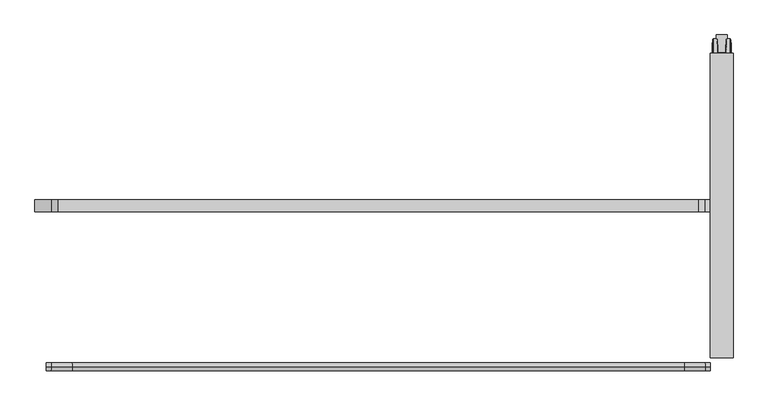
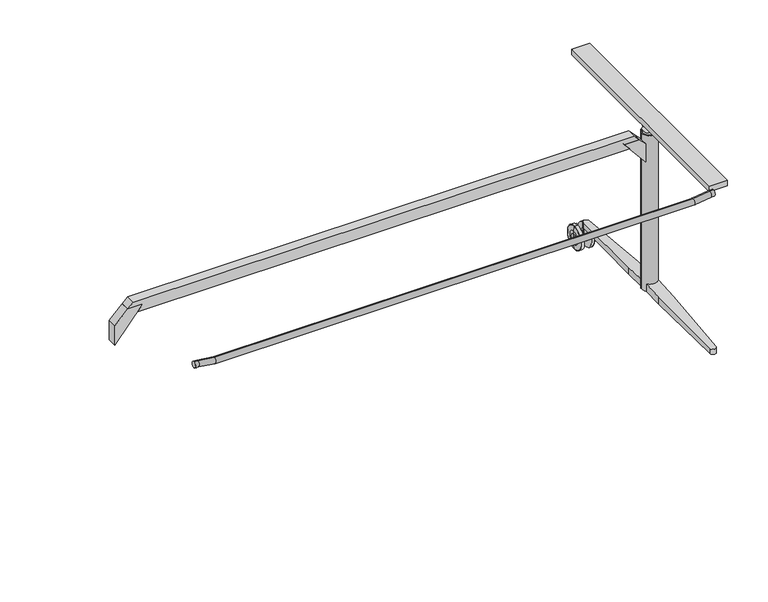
"""IFC4 building model written with IfcOpenShell, lengths in millimetres: furniture geometry, Table_Foldable_Wilkhahn_TimetableLift_Whiteboard : 2000w x 1000d (615/10)."""

from ifc_helpers import new_model, si_unit, point, frame, frame_2d, origin, place, context, project, spatial, polyline, circle_curve, ellipse_curve, trimmed, segment, composite_curve, outline, extrude, source, transform, mapped, element, save
from ifc_brep_helpers import plane_surface, cylinder_surface, revolved_surface, advanced_brep


def furniture_ac27c87f(model_context):
    return source(origin(), model_context, "Body", "SolidModel", [
        advanced_brep(
        [(870.4530674, 520.9511544, 26.9613134), (870.4530674, 520.9511544, 53.0387194), (870.4530674, 520.9511544, 40.0000164), (872.5845915, 520.9511544, 0.8972162), (872.5845915, 520.9511544, 79.1028166), (871.0121742, 520.9511544, 63.8876748), (871.0121742, 520.9511544, 16.1123581), (883.5439759, 520.9511544, 1.43e-05), (883.5439759, 520.9511544, 80.0000185), (873.5792938, 520.9511544, 80.0000185), (873.5792938, 520.9511544, 1.43e-05), (885.4530966, 520.9511544, 20.9999281), (885.4530966, 520.9511544, 59.0001048), (885.4530966, 520.9511544, 32.3463502), (885.4530966, 520.9511544, 47.6536826), (905.3531174, 520.9511544, 32.3463502), (905.3531174, 520.9511544, 47.6536826), (905.3531174, 520.9511544, 20.9999281), (905.3531174, 520.9511544, 59.0001048), (907.2622381, 520.9511544, 1.43e-05), (907.2622381, 520.9511544, 80.0000185), (916.3249398, 520.9511544, 1.43e-05), (916.3249398, 520.9511544, 80.0000185), (919.7942336, 520.9511544, 16.1142331), (919.7942336, 520.9511544, 63.8857997), (918.3143443, 520.9511544, 78.2056147), (918.3143443, 520.9511544, 1.7944182), (920.3531466, 520.9511544, 40.0000164), (920.3531466, 520.9511544, 53.0406045), (920.3531466, 520.9511544, 26.9594284)],
        [
            (0, 1, circle_curve(frame((870.4530674, 520.9511544, 40.0000164), z_axis=(-1.0, 0.0, 0.0), x_axis=(0.0, 0.0, 1.0)), 13.038703)),
            (1, 2),
            (2, 0),
            (1, 0, circle_curve(frame((870.4530674, 520.9511544, 40.0000164), z_axis=(-1.0, 0.0, 0.0), x_axis=(0.0, 0.0, 1.0)), 13.038703)),
            (3, 4, circle_curve(frame((872.5845915, 520.9511544, 40.0000164), z_axis=(-1.0, 0.0, 0.0), x_axis=(0.0, 0.0, 1.0)), 39.1028002)),
            (4, 5),
            (5, 6, circle_curve(frame((871.0121742, 520.9511544, 40.0000164), z_axis=(1.0, 0.0, 0.0), x_axis=(0.0, 0.0, 1.0)), 23.8876584)),
            (6, 3),
            (4, 3, circle_curve(frame((872.5845915, 520.9511544, 40.0000164), z_axis=(-1.0, 0.0, 0.0), x_axis=(0.0, 0.0, 1.0)), 39.1028002)),
            (6, 5, circle_curve(frame((871.0121742, 520.9511544, 40.0000164), z_axis=(1.0, 0.0, 0.0), x_axis=(0.0, 0.0, 1.0)), 23.8876584)),
            (7, 8, circle_curve(frame((883.5439759, 520.9511544, 40.0000164), z_axis=(-1.0, 0.0, 0.0), x_axis=(0.0, 0.0, 1.0)), 40.0000021)),
            (8, 9),
            (9, 10, circle_curve(frame((873.5792938, 520.9511544, 40.0000164), z_axis=(1.0, 0.0, 0.0), x_axis=(0.0, 0.0, 1.0)), 40.0000021)),
            (10, 7),
            (8, 7, circle_curve(frame((883.5439759, 520.9511544, 40.0000164), z_axis=(-1.0, 0.0, 0.0), x_axis=(0.0, 0.0, 1.0)), 40.0000021)),
            (10, 9, circle_curve(frame((873.5792938, 520.9511544, 40.0000164), z_axis=(1.0, 0.0, 0.0), x_axis=(0.0, 0.0, 1.0)), 40.0000021)),
            (11, 12, circle_curve(frame((885.4530966, 520.9511544, 40.0000164), z_axis=(-1.0, 0.0, 0.0), x_axis=(0.0, 0.0, 1.0)), 19.0000883)),
            (12, 8),
            (7, 11),
            (12, 11, circle_curve(frame((885.4530966, 520.9511544, 40.0000164), z_axis=(-1.0, 0.0, 0.0), x_axis=(0.0, 0.0, 1.0)), 19.0000883)),
            (13, 14, circle_curve(frame((885.4530966, 520.9511544, 40.0000164), z_axis=(-1.0, 0.0, 0.0), x_axis=(0.0, 0.0, 1.0)), 7.6536662)),
            (14, 12),
            (11, 13),
            (14, 13, circle_curve(frame((885.4530966, 520.9511544, 40.0000164), z_axis=(-1.0, 0.0, 0.0), x_axis=(0.0, 0.0, 1.0)), 7.6536662)),
            (15, 16, circle_curve(frame((905.3531174, 520.9511544, 40.0000164), z_axis=(-1.0, 0.0, 0.0), x_axis=(0.0, 0.0, 1.0)), 7.6536662)),
            (16, 14),
            (13, 15),
            (16, 15, circle_curve(frame((905.3531174, 520.9511544, 40.0000164), z_axis=(-1.0, 0.0, 0.0), x_axis=(0.0, 0.0, 1.0)), 7.6536662)),
            (17, 18, circle_curve(frame((905.3531174, 520.9511544, 40.0000164), z_axis=(-1.0, 0.0, 0.0), x_axis=(0.0, 0.0, 1.0)), 19.0000883)),
            (18, 16),
            (15, 17),
            (18, 17, circle_curve(frame((905.3531174, 520.9511544, 40.0000164), z_axis=(-1.0, 0.0, 0.0), x_axis=(0.0, 0.0, 1.0)), 19.0000883)),
            (19, 20, circle_curve(frame((907.2622381, 520.9511544, 40.0000164), z_axis=(-1.0, 0.0, 0.0), x_axis=(0.0, 0.0, 1.0)), 40.0000021)),
            (20, 18),
            (17, 19),
            (20, 19, circle_curve(frame((907.2622381, 520.9511544, 40.0000164), z_axis=(-1.0, 0.0, 0.0), x_axis=(0.0, 0.0, 1.0)), 40.0000021)),
            (21, 22, circle_curve(frame((916.3249398, 520.9511544, 40.0000164), z_axis=(-1.0, 0.0, 0.0), x_axis=(0.0, 0.0, 1.0)), 40.0000021)),
            (22, 20),
            (19, 21),
            (22, 21, circle_curve(frame((916.3249398, 520.9511544, 40.0000164), z_axis=(-1.0, 0.0, 0.0), x_axis=(0.0, 0.0, 1.0)), 40.0000021)),
            (23, 24, circle_curve(frame((919.7942336, 520.9511544, 40.0000164), z_axis=(-1.0, 0.0, 0.0), x_axis=(0.0, 0.0, 1.0)), 23.8857833)),
            (24, 25),
            (25, 26, circle_curve(frame((918.3143443, 520.9511544, 40.0000164), z_axis=(1.0, 0.0, 0.0), x_axis=(0.0, 0.0, 1.0)), 38.2055982)),
            (26, 23),
            (24, 23, circle_curve(frame((919.7942336, 520.9511544, 40.0000164), z_axis=(-1.0, 0.0, 0.0), x_axis=(0.0, 0.0, 1.0)), 23.8857833)),
            (26, 25, circle_curve(frame((918.3143443, 520.9511544, 40.0000164), z_axis=(1.0, 0.0, 0.0), x_axis=(0.0, 0.0, 1.0)), 38.2055982)),
            (27, 28),
            (28, 29, circle_curve(frame((920.3531466, 520.9511544, 40.0000164), z_axis=(1.0, 0.0, 0.0), x_axis=(0.0, 0.0, 1.0)), 13.0405881)),
            (29, 27),
            (29, 28, circle_curve(frame((920.3531466, 520.9511544, 40.0000164), z_axis=(1.0, 0.0, 0.0), x_axis=(0.0, 0.0, 1.0)), 13.0405881)),
            (5, 1, circle_curve(frame((975.9896451, 520.9511544, 53.0387194), z_axis=(0.0, -1.0, 0.0), x_axis=(-1.0, 0.0, 0.0)), 105.5365777)),
            (0, 6, circle_curve(frame((975.9896451, 520.9511544, 26.9613134), z_axis=(0.0, -1.0, 0.0), x_axis=(-1.0, 0.0, 0.0)), 105.5365777)),
            (9, 4, circle_curve(frame((873.5792938, 520.9511544, 79.0000185), z_axis=(0.0, -1.0, 0.0), x_axis=(-1.0, 0.0, 0.0)), 1.0)),
            (3, 10, circle_curve(frame((873.5792938, 520.9511544, 1.0000143), z_axis=(0.0, -1.0, 0.0), x_axis=(-1.0, 0.0, 0.0)), 1.0)),
            (25, 22, circle_curve(frame((916.3249398, 520.9511544, 78.0000185), z_axis=(0.0, -1.0, 0.0), x_axis=(-1.0, 0.0, 0.0)), 2.0)),
            (21, 26, circle_curve(frame((916.3249398, 520.9511544, 2.0000143), z_axis=(0.0, -1.0, 0.0), x_axis=(-1.0, 0.0, 0.0)), 2.0)),
            (28, 24, circle_curve(frame((814.8531466, 520.9511544, 53.0406045), z_axis=(0.0, -1.0, 0.0), x_axis=(-1.0, 0.0, 0.0)), 105.5)),
            (23, 29, circle_curve(frame((814.8531466, 520.9511544, 26.9594284), z_axis=(0.0, -1.0, 0.0), x_axis=(-1.0, 0.0, 0.0)), 105.5)),
        ],
        [
            plane_surface(frame((870.4530674, 520.9511544, 40.0000164), z_axis=(-1.0, 0.0, 0.0), x_axis=(0.0, 0.0, 1.0))),
            revolved_surface(polyline([(871.0121742, 520.9511544, 63.8876748), (872.5845915, 520.9511544, 79.1028166)]), (936.1531192, 520.9511544, 40.0000164), (1.0, 0.0, 0.0)),
            cylinder_surface(frame((936.1531192, 520.9511544, 40.0000164), z_axis=(1.0, 0.0, 0.0), x_axis=(0.0, 0.0, 1.0)), 40.0000021),
            revolved_surface(polyline([(883.5439759, 520.9511544, 80.0000185), (885.4530966, 520.9511544, 59.0001048)]), (936.1531192, 520.9511544, 40.0000164), (1.0, 0.0, 0.0)),
            plane_surface(frame((885.4530966, 520.9511544, 40.0000164), z_axis=(1.0, 0.0, 0.0), x_axis=(0.0, 0.0, 1.0))),
            cylinder_surface(frame((936.1531192, 520.9511544, 40.0000164), z_axis=(1.0, 0.0, 0.0), x_axis=(0.0, 0.0, 1.0)), 7.6536662),
            plane_surface(frame((905.3531174, 520.9511544, 40.0000164), z_axis=(-1.0, 0.0, 0.0), x_axis=(0.0, 0.0, 1.0))),
            revolved_surface(polyline([(905.3531174, 520.9511544, 59.0001048), (907.2622381, 520.9511544, 80.0000185)]), (936.1531192, 520.9511544, 40.0000164), (1.0, 0.0, 0.0)),
            revolved_surface(polyline([(918.3143443, 520.9511544, 78.2056147), (919.7942336, 520.9511544, 63.8857997)]), (936.1531192, 520.9511544, 40.0000164), (1.0, 0.0, 0.0)),
            plane_surface(frame((920.3531466, 520.9511544, 40.0000164), z_axis=(1.0, 0.0, 0.0), x_axis=(0.0, 0.0, 1.0))),
            revolved_surface(trimmed(ellipse_curve(frame((975.9896451, 520.9511544, 53.0387194), z_axis=(0.0, 1.0, 0.0), x_axis=(-1.0, 0.0, 0.0)), 105.5365777, 105.5365777), [point((870.4530674, 520.9511544, 53.0387194))], [point((871.0121742, 520.9511544, 63.8876748))], True, "CARTESIAN"), (936.1531192, 520.9511544, 40.0000164), (1.0, 0.0, 0.0)),
            revolved_surface(trimmed(ellipse_curve(frame((873.5792938, 520.9511544, 79.0000185), z_axis=(0.0, 1.0, 0.0), x_axis=(-1.0, 0.0, 0.0)), 1.0, 1.0), [point((872.5845915, 520.9511544, 79.1028166))], [point((873.5792938, 520.9511544, 80.0000185))], True, "CARTESIAN"), (936.1531192, 520.9511544, 40.0000164), (1.0, 0.0, 0.0)),
            revolved_surface(trimmed(ellipse_curve(frame((916.3249398, 520.9511544, 78.0000185), z_axis=(0.0, 1.0, 0.0), x_axis=(-1.0, 0.0, 0.0)), 2.0, 2.0), [point((916.3249398, 520.9511544, 80.0000185))], [point((918.3143443, 520.9511544, 78.2056147))], True, "CARTESIAN"), (936.1531192, 520.9511544, 40.0000164), (1.0, 0.0, 0.0)),
            revolved_surface(trimmed(ellipse_curve(frame((814.8531466, 520.9511544, 53.0406045), z_axis=(0.0, 1.0, 0.0), x_axis=(-1.0, 0.0, 0.0)), 105.5, 105.5), [point((919.7942336, 520.9511544, 63.8857997))], [point((920.3531466, 520.9511544, 53.0406045))], True, "CARTESIAN"), (936.1531192, 520.9511544, 40.0000164), (1.0, 0.0, 0.0)),
        ],
        [
            (0, [[1, 2, 3]]),
            (0, [[4, -3, -2]]),
            (1, [[5, 6, 7, 8]]),
            (1, [[9, -8, 10, -6]]),
            (2, [[11, 12, 13, 14]]),
            (2, [[15, -14, 16, -12]]),
            (3, [[17, 18, -11, 19]]),
            (3, [[20, -19, -15, -18]]),
            (4, [[21, 22, -17, 23]]),
            (4, [[24, -23, -20, -22]]),
            (5, [[25, 26, -21, 27]]),
            (5, [[28, -27, -24, -26]]),
            (6, [[29, 30, -25, 31]]),
            (6, [[32, -31, -28, -30]]),
            (7, [[33, 34, -29, 35]]),
            (7, [[36, -35, -32, -34]]),
            (2, [[37, 38, -33, 39]]),
            (2, [[40, -39, -36, -38]]),
            (8, [[41, 42, 43, 44]]),
            (8, [[45, -44, 46, -42]]),
            (9, [[47, 48, 49]]),
            (9, [[-49, 50, -47]]),
            (10, [[-7, 51, -1, 52]]),
            (10, [[-10, -52, -4, -51]]),
            (11, [[-13, 53, -5, 54]]),
            (11, [[-16, -54, -9, -53]]),
            (12, [[-43, 55, -37, 56]]),
            (12, [[-46, -56, -40, -55]]),
            (13, [[-48, 57, -41, 58]]),
            (13, [[-50, -58, -45, -57]]),
        ],
    ),
        advanced_brep(
        [(915.0000252, 110.1174444, 100.5064747), (915.0000252, 110.1174444, 125.9916346), (915.0000252, 24.0035147, 121.2441802), (915.0000252, 24.0035147, 97.613637), (875.0000252, 110.1174444, 125.9916346), (875.0000252, 110.1174444, 100.5064747), (875.0000252, 41.34133, 98.1960687), (875.0000252, 41.34133, 122.2000127), (905.3307927, -238.0675149, 88.8098467), (885.2931938, -238.0675149, 88.8098467), (885.3284401, -239.0242798, 106.743478), (905.2954923, -239.0242831, 106.7434779), (905.2954923, -239.0242831, 88.8098467), (885.3284401, -239.0242798, 88.8098467)],
        [
            (0, 1),
            (1, 2),
            (2, 3),
            (3, 0),
            (4, 5),
            (5, 6),
            (6, 7),
            (7, 4),
            (5, 0),
            (3, 8),
            (8, 9),
            (9, 6),
            (1, 4),
            (7, 10),
            (10, 11, ellipse_curve(frame((895.3119663, -238.4505156, 106.7751096), z_axis=(0.0, -0.05504633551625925, 0.9984838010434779), x_axis=(0.0, -0.9984838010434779, -0.05504633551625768)), 10.015185, 10.0)),
            (11, 2),
            (8, 12),
            (12, 13, circle_curve(frame((895.3119663, -238.4505156, 88.8098467), z_axis=(0.0, 0.0, -1.0), x_axis=(-1.0, 0.0, 0.0)), 10.0)),
            (13, 9),
            (13, 10),
            (12, 11),
        ],
        [
            plane_surface(frame((915.0000252, 110.1174444, 100.5064747), z_axis=(1.0, 0.0, 0.0), x_axis=(0.0, 0.9994362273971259, 0.033574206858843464))),
            plane_surface(frame((875.0000252, 110.1174444, 100.5064747), z_axis=(-1.0, 0.0, 0.0), x_axis=(0.0, -0.9994362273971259, -0.033574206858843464))),
            plane_surface(frame((915.0000252, -238.0675149, 88.8098467), z_axis=(0.0, 0.033574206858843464, -0.9994362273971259), x_axis=(-1.0, 0.0, 0.0))),
            plane_surface(frame((915.0000252, 110.1174444, 125.9916346), z_axis=(0.0, -0.05504633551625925, 0.9984838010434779), x_axis=(-1.0, 0.0, 0.0))),
            plane_surface(frame((915.0000252, -249.5346363, 88.8098467), z_axis=(0.0, 0.0, -1.0), x_axis=(-1.0, 0.0, 0.0))),
            plane_surface(frame((885.3284401, -239.0242798, 234.8098558), z_axis=(-0.9993221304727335, -0.0368141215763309, 0.0), x_axis=(0.0, 0.0, -1.0))),
            cylinder_surface(frame((895.3119663, -238.4505156, -14.1901527), z_axis=(0.0, 0.0, -1.0), x_axis=(-1.0, 0.0, 0.0)), 10.0),
            plane_surface(frame((918.1772387, 110.1174444, 234.8098558), z_axis=(0.9993200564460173, -0.036870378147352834, 0.0), x_axis=(0.0, 0.0, -1.0))),
            plane_surface(frame((915.0000252, 110.1174444, 100.5064747), z_axis=(0.0, 1.0, 0.0), x_axis=(-1.0, 0.0, 0.0))),
        ],
        [
            (0, [[1, 2, 3, 4]]),
            (1, [[5, 6, 7, 8]]),
            (2, [[9, -4, 10, 11, 12, -6]]),
            (3, [[13, -8, 14, 15, 16, -2]]),
            (4, [[-11, 17, 18, 19]]),
            (5, [[20, -14, -7, -12, -19]]),
            (6, [[-20, -18, 21, -15]]),
            (7, [[-21, -17, -10, -3, -16]]),
            (8, [[-1, -9, -5, -13]]),
        ],
    ),
        advanced_brep(
        [(915.0000252, 141.7848644, 125.5064747), (915.0000252, 141.7848644, 100.5064747), (915.0000252, 227.8987942, 97.613637), (915.0000252, 227.8987942, 120.8061789), (875.0000252, 141.7848644, 100.5064747), (875.0000252, 141.7848644, 125.5064747), (875.0000252, 210.5609788, 121.7525167), (875.0000252, 210.5609788, 98.1960687), (885.2931938, 489.9698238, 88.8098467), (905.3307927, 489.9698238, 88.8098467), (905.2954923, 490.926592, 106.4495183), (885.3284401, 490.9265887, 106.4495185), (885.3284401, 490.9265887, 88.8098467), (905.2954923, 490.926592, 88.8098467)],
        [
            (0, 1),
            (1, 2),
            (2, 3),
            (3, 0),
            (4, 5),
            (5, 6),
            (6, 7),
            (7, 4),
            (1, 4),
            (7, 8),
            (8, 9),
            (9, 2),
            (0, 5),
            (3, 10),
            (10, 11, ellipse_curve(frame((895.3119663, 490.3528245, 106.4808359), z_axis=(0.0, 0.05450116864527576, 0.9985137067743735), x_axis=(0.0, 0.9985137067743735, -0.05450116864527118)), 10.0148851, 10.0)),
            (11, 6),
            (8, 12),
            (12, 13, circle_curve(frame((895.3119663, 490.3528245, 88.8098467), z_axis=(0.0, 0.0, -1.0), x_axis=(-1.0, 0.0, 0.0)), 10.0)),
            (13, 9),
            (11, 12),
            (10, 13),
        ],
        [
            plane_surface(frame((915.0000252, 110.1174444, 100.5064747), z_axis=(1.0, 0.0, 0.0), x_axis=(0.0, 0.9994362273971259, 0.033574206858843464))),
            plane_surface(frame((875.0000252, 110.1174444, 100.5064747), z_axis=(-1.0, 0.0, 0.0), x_axis=(0.0, -0.9994362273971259, -0.033574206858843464))),
            plane_surface(frame((915.0000252, 141.7848644, 100.5064747), z_axis=(0.0, -0.033574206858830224, -0.9994362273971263), x_axis=(-1.0, 0.0, 0.0))),
            plane_surface(frame((915.0000252, 141.7848644, 125.5064747), z_axis=(0.0, -1.0, 0.0), x_axis=(-1.0, 0.0, 0.0))),
            plane_surface(frame((915.0000252, 501.4369452, 105.8758392), z_axis=(0.0, 0.05450116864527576, 0.9985137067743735), x_axis=(-1.0, 0.0, 0.0))),
            plane_surface(frame((915.0000252, 489.9698238, 88.8098467), z_axis=(0.0, 0.0, -1.0), x_axis=(-1.0, 0.0, 0.0))),
            plane_surface(frame((872.5013837, 142.7351655, 234.8098558), z_axis=(-0.9993221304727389, 0.03681412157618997, 0.0), x_axis=(0.0, 0.0, -1.0))),
            cylinder_surface(frame((895.3119663, 490.3528245, -14.1901527), z_axis=(0.0, 0.0, -1.0), x_axis=(-1.0, 0.0, 0.0)), 10.0),
            plane_surface(frame((905.2954923, 490.926592, 234.8098558), z_axis=(0.9993200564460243, 0.036870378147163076, 0.0), x_axis=(0.0, 0.0, -1.0))),
        ],
        [
            (0, [[1, 2, 3, 4]]),
            (1, [[5, 6, 7, 8]]),
            (2, [[9, -8, 10, 11, 12, -2]]),
            (3, [[-1, 13, -5, -9]]),
            (4, [[-13, -4, 14, 15, 16, -6]]),
            (5, [[-11, 17, 18, 19]]),
            (6, [[20, -17, -10, -7, -16]]),
            (7, [[-20, -15, 21, -18]]),
            (8, [[-21, -14, -3, -12, -19]]),
        ],
    ),
        extrude(outline(composite_curve([segment(trimmed(circle_curve(frame_2d((895.0000252, 125.9511544)), 22.0748856), [point((917.0749108, 125.9511544))], [point((872.9251395, 125.9511544))], False, "CARTESIAN"), True, "CONTINUOUS"), segment(trimmed(circle_curve(frame_2d((895.0000252, 125.9511544)), 22.0748856), [point((872.9251395, 125.9511544))], [point((917.0749108, 125.9511544))], False, "CARTESIAN"), True, "CONTINUOUS")], self_intersect=False)), frame((0.0, 0.0, 648.5142032), z_axis=(0.0, 0.0, 1.0), x_axis=(1.0, 0.0, 0.0)), (0.0, 0.0, 1.0), 7.7231854),
        extrude(outline(polyline([(46.8012701, 909.9796901), (46.8012701, 880.8589951), (33.7579803, 883.5602115), (33.7579803, 907.2784737), (46.8012701, 909.9796901)])), frame((0.0, 520.9511544, 0.0), z_axis=(0.0, 1.0, 0.0), x_axis=(0.0, 0.0, 1.0)), (0.0, 0.0, 1.0), 50.0),
        extrude(outline(composite_curve([segment(trimmed(circle_curve(frame_2d((895.0000252, 125.9511544)), 21.8066495), [point((916.8066747, 125.9511544))], [point((873.1933756, 125.9511544))], False, "CARTESIAN"), True, "CONTINUOUS"), segment(trimmed(circle_curve(frame_2d((895.0000252, 125.9511544)), 21.8066495), [point((873.1933756, 125.9511544))], [point((916.8066747, 125.9511544))], False, "CARTESIAN"), True, "CONTINUOUS")], self_intersect=False)), frame((0.0, 0.0, 672.2302641), z_axis=(0.0, 0.0, 1.0), x_axis=(1.0, 0.0, 0.0)), (0.0, 0.0, 1.0), 12.7697121),
        extrude(outline(composite_curve([segment(trimmed(circle_curve(frame_2d((895.5388896, 490.7419216)), 9.5), [point((905.0388896, 490.7419216))], [point((886.0388896, 490.7419216))], False, "CARTESIAN"), True, "CONTINUOUS"), segment(trimmed(circle_curve(frame_2d((895.5388896, 490.7419216)), 9.5), [point((886.0388896, 490.7419216))], [point((905.0388896, 490.7419216))], False, "CARTESIAN"), True, "CONTINUOUS")], self_intersect=False)), frame((0.0, 0.0, 50.0000143), z_axis=(0.0, 0.0, 1.0), x_axis=(1.0, 0.0, 0.0)), (0.0, 0.0, 1.0), 38.8098324),
        extrude(outline(composite_curve([segment(trimmed(circle_curve(frame_2d((895.0, 125.9511544)), 26.0), [point((921.0, 125.9511544))], [point((869.0, 125.9511544))], False, "CARTESIAN"), True, "CONTINUOUS"), segment(trimmed(circle_curve(frame_2d((895.0, 125.9511544)), 26.0), [point((869.0, 125.9511544))], [point((921.0, 125.9511544))], False, "CARTESIAN"), True, "CONTINUOUS")], self_intersect=False)), frame((0.0, 0.0, 100.2652558), z_axis=(0.0, 0.0, 1.0), x_axis=(1.0, 0.0, 0.0)), (0.0, 0.0, 1.0), 548.2489474),
        extrude(outline(polyline([(659.9544603, -834.0633969), (642.2767908, -851.7410664), (642.2767908, -801.7410664), (621.0635874, -819.2634425), (621.0635874, 819.2634425), (642.2767908, 801.7410664), (642.2767908, 851.7410664), (659.9544603, 834.0633969), (659.9544603, -834.0633969)])), frame((0.0, 109.7857178, 0.0), z_axis=(0.0, 1.0, 0.0), x_axis=(0.0, 0.0, 1.0)), (0.0, 0.0, 1.0), 31.1654367),
        extrude(outline(polyline([(599.7944959, 894.2233613), (642.2767908, 851.7410664), (642.2767908, 801.7410664), (530.3144788, 894.2233613), (599.7944959, 894.2233613)])), frame((0.0, 109.7857178, 0.0), z_axis=(0.0, 1.0, 0.0), x_axis=(0.0, 0.0, 1.0)), (0.0, 0.0, 1.0), 31.1654367),
        extrude(outline(polyline([(599.0178177, -895.0000395), (529.3742049, -895.0000395), (642.2767908, -801.7410664), (642.2767908, -851.7410664), (599.0178177, -895.0000395)])), frame((0.0, 109.7857178, 0.0), z_axis=(0.0, 1.0, 0.0), x_axis=(0.0, 0.0, 1.0)), (0.0, 0.0, 1.0), 31.1654367),
        extrude(outline(polyline([(865.0000395, 522.9511544), (925.0000109, 522.9511544), (925.0000109, -271.0488456), (865.0000395, -271.0488456), (865.0000395, 522.9511544)])), frame((0.0, 0.0, 684.9999762), z_axis=(0.0, 0.0, 1.0), x_axis=(1.0, 0.0, 0.0)), (0.0, 0.0, 1.0), 20.0000238),
        advanced_brep(
        [(-865.0000395, -294.1884095, 705.4672388), (-865.0000395, -294.1884095, 685.4672388), (865.0000395, -294.1884095, 705.4672388), (865.0000395, -294.1884095, 685.4672388), (-852.0892263, -294.1884095, 705.4672388), (-853.5361626, -294.1884095, 685.4672388), (-797.0892404, -294.1884095, 697.4672184), (-798.5361767, -294.1884095, 677.4672184), (797.089229, -294.1884095, 697.4672184), (798.5361653, -294.1884095, 677.4672184), (852.0892149, -294.1884095, 705.4672388), (853.5361512, -294.1884095, 685.4672388)],
        [
            (0, 1, circle_curve(frame((-865.0000395, -294.1884095, 695.4672388), z_axis=(-1.0, 0.0, 0.0), x_axis=(0.0, 0.0, -1.0)), 10.0)),
            (1, 0, circle_curve(frame((-865.0000395, -294.1884095, 695.4672388), z_axis=(-1.0, 0.0, 0.0), x_axis=(0.0, 0.0, -1.0)), 10.0)),
            (2, 3, circle_curve(frame((865.0000395, -294.1884095, 695.4672388), z_axis=(1.0, 0.0, 0.0), x_axis=(0.0, 0.0, -1.0)), 10.0)),
            (3, 2, circle_curve(frame((865.0000395, -294.1884095, 695.4672388), z_axis=(1.0, 0.0, 0.0), x_axis=(0.0, 0.0, -1.0)), 10.0)),
            (0, 4),
            (4, 5, ellipse_curve(frame((-852.8126945, -294.1884095, 695.4672388), z_axis=(-0.9973931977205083, 0.0, 0.07215822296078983), x_axis=(-0.07215822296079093, 0.0, -0.997393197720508)), 10.0261362, 10.0)),
            (5, 1),
            (5, 4, ellipse_curve(frame((-852.8126945, -294.1884095, 695.4672388), z_axis=(-0.9973931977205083, 0.0, 0.07215822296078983), x_axis=(-0.07215822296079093, 0.0, -0.997393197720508)), 10.0261362, 10.0)),
            (4, 6),
            (6, 7, ellipse_curve(frame((-797.8127086, -294.1884095, 687.4672184), z_axis=(-0.9973931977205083, 0.0, 0.07215822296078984), x_axis=(0.07215822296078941, 0.0, 0.9973931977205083)), 10.0261362, 10.0)),
            (7, 5),
            (7, 6, ellipse_curve(frame((-797.8127086, -294.1884095, 687.4672184), z_axis=(-0.9973931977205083, 0.0, 0.07215822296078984), x_axis=(0.07215822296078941, 0.0, 0.9973931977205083)), 10.0261362, 10.0)),
            (6, 8),
            (8, 9, ellipse_curve(frame((797.8126971, -294.1884095, 687.4672184), z_axis=(-0.997393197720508, 0.0, -0.07215822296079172), x_axis=(-0.07215822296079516, 0.0, 0.9973931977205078)), 10.0261362, 10.0)),
            (9, 7),
            (9, 8, ellipse_curve(frame((797.8126971, -294.1884095, 687.4672184), z_axis=(-0.997393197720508, 0.0, -0.07215822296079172), x_axis=(-0.07215822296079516, 0.0, 0.9973931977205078)), 10.0261362, 10.0)),
            (8, 10),
            (10, 11, ellipse_curve(frame((852.812683, -294.1884095, 695.4672388), z_axis=(-0.997393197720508, 0.0, -0.0721582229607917), x_axis=(0.07215822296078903, 0.0, -0.9973931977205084)), 10.0261362, 10.0)),
            (11, 9),
            (11, 10, ellipse_curve(frame((852.812683, -294.1884095, 695.4672388), z_axis=(-0.997393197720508, 0.0, -0.0721582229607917), x_axis=(0.07215822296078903, 0.0, -0.9973931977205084)), 10.0261362, 10.0)),
            (10, 2),
            (3, 11),
        ],
        [
            plane_surface(frame((-865.0000395, -374.0488456, 665.2336856), z_axis=(-1.0, 0.0, 0.0), x_axis=(0.0, 1.0, 0.0))),
            plane_surface(frame((865.0000395, -374.0488456, 665.2336856), z_axis=(1.0, 0.0, 0.0), x_axis=(0.0, 1.0, 0.0))),
            cylinder_surface(frame((-865.0000395, -294.1884095, 695.4672388), z_axis=(-1.0, 0.0, 0.0), x_axis=(0.0, 0.0, -1.0)), 10.0),
            cylinder_surface(frame((-850.6481708, -294.1884095, 695.1523982), z_axis=(-0.989586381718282, 0.0, 0.14394024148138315), x_axis=(-0.14394024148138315, 0.0, -0.989586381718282)), 10.0),
            cylinder_surface(frame((-800.0000099, -294.1884095, 687.4672184), z_axis=(-1.0, 0.0, 0.0), x_axis=(0.0, 0.0, -1.0)), 10.0),
            cylinder_surface(frame((795.6481735, -294.1884095, 687.1523777), z_axis=(-0.9895863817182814, 0.0, -0.14394024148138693), x_axis=(0.14394024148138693, 0.0, -0.9895863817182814)), 10.0),
            cylinder_surface(frame((854.9999844, -294.1884095, 695.4672388), z_axis=(-1.0, 0.0, 0.0), x_axis=(0.0, 0.0, -1.0)), 10.0),
        ],
        [
            (0, [[1, 2]]),
            (1, [[3, 4]]),
            (2, [[-1, 5, 6, 7]]),
            (2, [[-2, -7, 8, -5]]),
            (3, [[-6, 9, 10, 11]]),
            (3, [[-8, -11, 12, -9]]),
            (4, [[-10, 13, 14, 15]]),
            (4, [[-12, -15, 16, -13]]),
            (5, [[-14, 17, 18, 19]]),
            (5, [[-16, -19, 20, -17]]),
            (6, [[-18, 21, -4, 22]]),
            (6, [[-20, -22, -3, -21]]),
        ],
    ),
    ])


if __name__ == "__main__":
    model = new_model("IFC4")
    model_context = context("Model", 3, world=origin())
    ifc_project = project(units=[si_unit("LENGTHUNIT", "METRE", prefix="MILLI")], contexts=[model_context])
    site = spatial("IfcSite", under=ifc_project)
    building = spatial("IfcBuilding", under=site)
    placement = place(None, origin())
    furniture_shape = furniture_ac27c87f(model_context)
    element("IfcFurniture", 1, ObjectType="Table_Foldable_Wilkhahn_TimetableLift_Whiteboard : 2000w x 1000d (615/10)", at=placement, inside=building, context=model_context, shape_type="MappedRepresentation", body=[
        mapped(furniture_shape, transform((0.0, 0.0, 0.0), x_axis=(1.0, 0.0, 0.0), y_axis=(0.0, 1.0, 0.0), z_axis=(0.0, 0.0, 1.0))),
    ])
    save(model, "model.ifc")
